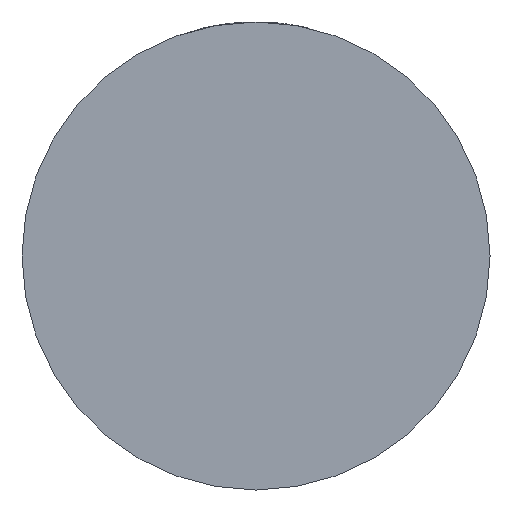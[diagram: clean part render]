
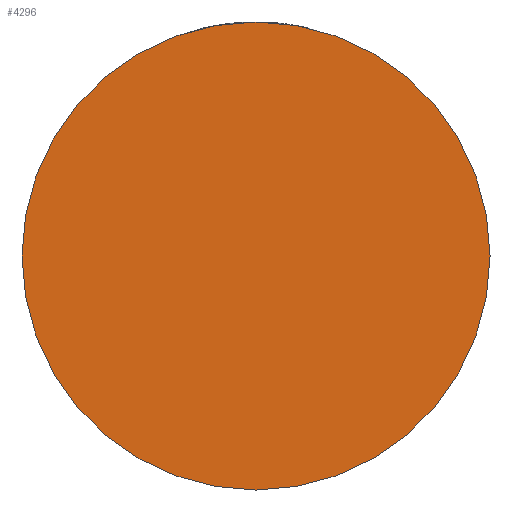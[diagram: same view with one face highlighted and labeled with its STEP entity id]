
A CAD part, front view. The second image highlights one B-rep face of the part: STEP entity #4296.
In plain terms, the highlighted planar face has unit normal (0, -1, 0).
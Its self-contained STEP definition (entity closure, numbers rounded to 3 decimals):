
#500 = ORIENTED_EDGE ( 'NONE', *, *, #2523, .T. ) ;
#576 = PLANE ( 'NONE',  #1478 ) ;
#752 = EDGE_LOOP ( 'NONE', ( #1168, #500 ) ) ;
#999 = DIRECTION ( 'NONE',  ( 0., -1., 0. ) ) ;
#1046 = DIRECTION ( 'NONE',  ( 1., 0., 0. ) ) ;
#1168 = ORIENTED_EDGE ( 'NONE', *, *, #3651, .T. ) ;
#1475 = DIRECTION ( 'NONE',  ( 0., -1., 0. ) ) ;
#1478 = AXIS2_PLACEMENT_3D ( 'NONE', #2937, #3631, #2428 ) ;
#1579 = FACE_OUTER_BOUND ( 'NONE', #752, .T. ) ;
#1592 = VERTEX_POINT ( 'NONE', #3852 ) ;
#1723 = DIRECTION ( 'NONE',  ( 1., 0., 0. ) ) ;
#2129 = CARTESIAN_POINT ( 'NONE',  ( 0., -28., 0. ) ) ;
#2244 = AXIS2_PLACEMENT_3D ( 'NONE', #2736, #999, #1046 ) ;
#2247 = AXIS2_PLACEMENT_3D ( 'NONE', #2129, #1475, #1723 ) ;
#2428 = DIRECTION ( 'NONE',  ( 1., 0., 0. ) ) ;
#2461 = VERTEX_POINT ( 'NONE', #4149 ) ;
#2523 = EDGE_CURVE ( 'NONE', #2461, #1592, #4122, .T. ) ;
#2736 = CARTESIAN_POINT ( 'NONE',  ( 0., -28., 0. ) ) ;
#2937 = CARTESIAN_POINT ( 'NONE',  ( 0., -28., 0. ) ) ;
#3537 = CIRCLE ( 'NONE', #2244, 40. ) ;
#3631 = DIRECTION ( 'NONE',  ( 0., -1., 0. ) ) ;
#3651 = EDGE_CURVE ( 'NONE', #1592, #2461, #3537, .T. ) ;
#3852 = CARTESIAN_POINT ( 'NONE',  ( -40., -28., 0. ) ) ;
#4122 = CIRCLE ( 'NONE', #2247, 40. ) ;
#4149 = CARTESIAN_POINT ( 'NONE',  ( 40., -28., 0. ) ) ;
#4296 = ADVANCED_FACE ( 'NONE', ( #1579 ), #576, .T. ) ;
